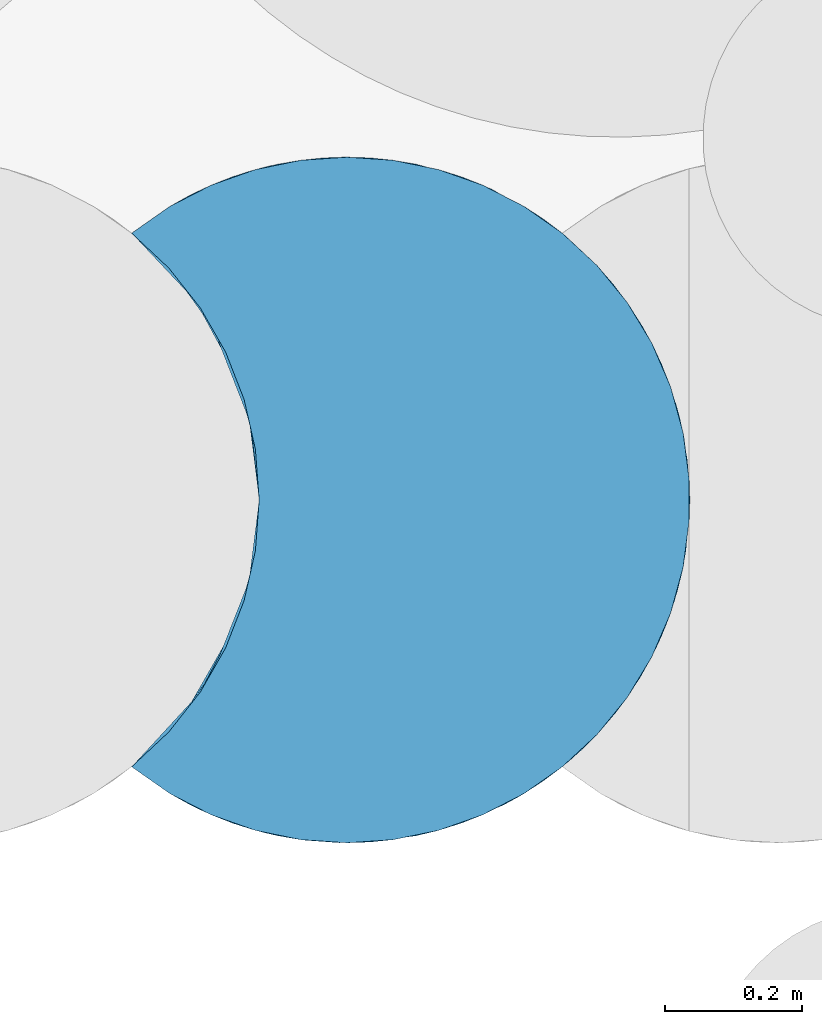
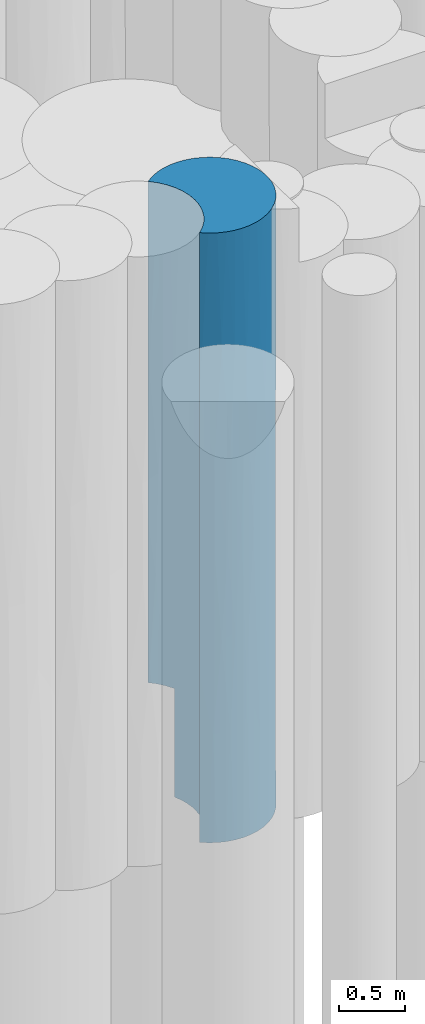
# One storey, part 22 of 104: 1 pile.
"""IFC2X3 building model written with IfcOpenShell, lengths in millimetres."""

import ifcopenshell
import ifcopenshell.guid

model = None  # the IFC model being written
_history = None  # IfcOwnerHistory: only IFC2X3 demands one
_inside = {}  # id of a spatial element -> (the spatial element, [elements in it])
_under = {}  # id of a project, library or spatial element -> (it, [spatial elements below it])
_declared = {}  # id of a project -> (the project, [libraries it declares])
_typed = {}  # id of a type object -> (the type object, [elements of that type])
_made_of = {}  # id of a material, layer set ... -> (it, [elements and type objects made of it])


def new_model(schema):
    """Start an empty IFC model of exactly this schema.

    Asked for "IFC4X3", IfcOpenShell would pick the latest addendum, in which some entities
    have other attributes; the version numbers below select the first issue.
    IFC2X3 requires an IfcOwnerHistory on every rooted entity: one is made here for all.
    """
    global model, _history
    if schema == "IFC4X3":
        model = ifcopenshell.file(schema_version=(4, 3, 0, 0))
    else:
        model = ifcopenshell.file(schema=schema)
    _inside.clear()
    _under.clear()
    _declared.clear()
    _typed.clear()
    _made_of.clear()
    _history = None
    if model.schema == "IFC2X3":
        org = make("IfcOrganization", Name="unknown")
        user = make(
            "IfcPersonAndOrganization",
            ThePerson=make("IfcPerson", FamilyName="unknown"),
            TheOrganization=org,
        )
        app = make(
            "IfcApplication",
            ApplicationDeveloper=org,
            Version="unknown",
            ApplicationFullName="unknown",
            ApplicationIdentifier="unknown",
        )
        _history = make(
            "IfcOwnerHistory",
            OwningUser=user,
            OwningApplication=app,
            ChangeAction="ADDED",
            CreationDate=0,
        )
    return model


def make(cls, **values):
    """One entity of the class cls with the attributes given. An attribute that is None is left unset."""
    return model.create_entity(
        cls, **{name: value for name, value in values.items() if value is not None}
    )


def entity(cls, *values):
    """Any entity or typed value of the class cls, its attributes in the order of the schema. None: left unset."""
    e = model.create_entity(cls)
    for i, value in enumerate(values):
        if value is not None:
            e[i] = value
    return e


def rooted(cls, **values):
    """An entity with a GlobalId (a new one), such as an element, a storey or a relation."""
    return make(cls, GlobalId=ifcopenshell.guid.new(), OwnerHistory=_history, **values)


def si_unit(unit_type, name, prefix=None):
    """IfcSIUnit, for example si_unit("LENGTHUNIT", "METRE", prefix="MILLI")."""
    return make("IfcSIUnit", UnitType=unit_type, Prefix=prefix, Name=name)


def converted_unit(unit_type, name, factor, base, dimensions=None, offset=None):
    """IfcConversionBasedUnit, such as the inch: factor (a typed value) times the base unit."""
    return make(
        "IfcConversionBasedUnit"
        if offset is None
        else "IfcConversionBasedUnitWithOffset",
        ConversionOffset=offset,
        Dimensions=None
        if dimensions is None
        else entity("IfcDimensionalExponents", *dimensions),
        UnitType=unit_type,
        Name=name,
        ConversionFactor=make(
            "IfcMeasureWithUnit", ValueComponent=factor, UnitComponent=base
        ),
    )


def derived_unit(unit_type, elements):
    """IfcDerivedUnit: a product of units, each with its exponent."""
    return make(
        "IfcDerivedUnit",
        Elements=[
            make("IfcDerivedUnitElement", Unit=unit, Exponent=power)
            for unit, power in elements
        ],
        UnitType=unit_type,
    )


def assignment(units):
    """IfcUnitAssignment: the units of a project."""
    return None if units is None else make("IfcUnitAssignment", Units=units)


def point(xyz):
    """IfcCartesianPoint."""
    return None if xyz is None else make("IfcCartesianPoint", Coordinates=xyz)


def direction(xyz):
    """IfcDirection."""
    return None if xyz is None else make("IfcDirection", DirectionRatios=xyz)


def frame(location, z_axis=None, x_axis=None):
    """IfcAxis2Placement3D, a coordinate frame: its origin and axes. An axis left out is left unset."""
    return make(
        "IfcAxis2Placement3D",
        Location=point(location),
        Axis=direction(z_axis),
        RefDirection=direction(x_axis),
    )


def origin():
    """The frame at (0, 0, 0) with its axes left unset."""
    return frame((0.0, 0.0, 0.0))


def place(relative_to, where):
    """IfcLocalPlacement: puts the frame where relative to a parent placement (None: the world)."""
    return make(
        "IfcLocalPlacement", PlacementRelTo=relative_to, RelativePlacement=where
    )


def context(
    kind, dimensions, precision=None, world=None, true_north=None, identifier=None
):
    """IfcGeometricRepresentationContext, for example the 3D "Model" context."""
    return make(
        "IfcGeometricRepresentationContext",
        ContextIdentifier=identifier,
        ContextType=kind,
        CoordinateSpaceDimension=dimensions,
        Precision=precision,
        WorldCoordinateSystem=world,
        TrueNorth=true_north,
    )


def subcontext(parent, identifier, kind, view, scale=None):
    """IfcGeometricRepresentationSubContext, for example "Body" below "Model"."""
    return make(
        "IfcGeometricRepresentationSubContext",
        ContextIdentifier=identifier,
        ContextType=kind,
        ParentContext=parent,
        TargetScale=scale,
        TargetView=view,
    )


def project(units=None, contexts=None):
    """IfcProject with its units and contexts."""
    return rooted(
        "IfcProject",
        Name="project",
        RepresentationContexts=contexts,
        UnitsInContext=assignment(units),
    )


def spatial(cls, under=None, at=None, **own):
    """A site, building, storey or space (cls), placed at a placement, below another one or the project."""
    s = rooted(cls, ObjectPlacement=at, **own)
    if under is not None:
        _under.setdefault(under.id(), (under, []))[1].append(s)
    return s


def faces_of(points, faces, orient=None, outer=None):
    """IfcFace entities. A face is a list of loops; a loop is a list of indices into points, from 0.

    orient and outer hold one flag for each loop. By default every Orientation is true, the
    first loop of a face is its IfcFaceOuterBound and the others are IfcFaceBound.
    """
    made = []
    for i, loops in enumerate(faces):
        bounds = []
        for j, loop in enumerate(loops):
            is_outer = j == 0 if outer is None else outer[i][j]
            bounds.append(
                make(
                    "IfcFaceOuterBound" if is_outer else "IfcFaceBound",
                    Bound=make("IfcPolyLoop", Polygon=[points[k] for k in loop]),
                    Orientation=True if orient is None else orient[i][j],
                )
            )
        made.append(make("IfcFace", Bounds=bounds))
    return made


def faceted_brep(points, faces, orient=None, outer=None, voids=None):
    """IfcFacetedBrep: a solid bounded by flat faces; with voids (closed shells), ...WithVoids."""
    shared = [point(p) for p in points]
    hull = make("IfcClosedShell", CfsFaces=faces_of(shared, faces, orient, outer))
    if voids is None:
        return make("IfcFacetedBrep", Outer=hull)
    return make(
        "IfcFacetedBrepWithVoids",
        Outer=hull,
        Voids=[
            make(cls, CfsFaces=faces_of(shared, fs, o, b)) for cls, fs, o, b in voids
        ],
    )


def shape(context_of_items, identifier, shape_type, items):
    """IfcShapeRepresentation: the items that make up one representation, for example the "Body"."""
    return make(
        "IfcShapeRepresentation",
        ContextOfItems=context_of_items,
        RepresentationIdentifier=identifier,
        RepresentationType=shape_type,
        Items=items,
    )


def source(mapping_origin, context_of_items, identifier, shape_type, items):
    """IfcRepresentationMap: a shape defined once, which mapped items show again and again."""
    return make(
        "IfcRepresentationMap",
        MappingOrigin=mapping_origin,
        MappedRepresentation=shape(context_of_items, identifier, shape_type, items),
    )


def transform(
    local_origin,
    x_axis=None,
    y_axis=None,
    z_axis=None,
    scale=None,
    scale2=None,
    scale3=None,
    uniform=True,
):
    """IfcCartesianTransformationOperator3D, or its non-uniform kind. x_axis, y_axis, z_axis: its Axis1, 2, 3."""
    if uniform:
        return make(
            "IfcCartesianTransformationOperator3D",
            Axis1=direction(x_axis),
            Axis2=direction(y_axis),
            LocalOrigin=point(local_origin),
            Scale=scale,
            Axis3=direction(z_axis),
        )
    return make(
        "IfcCartesianTransformationOperator3DnonUniform",
        Axis1=direction(x_axis),
        Axis2=direction(y_axis),
        LocalOrigin=point(local_origin),
        Scale=scale,
        Axis3=direction(z_axis),
        Scale2=scale2,
        Scale3=scale3,
    )


def mapped(mapping_source, mapping_target):
    """IfcMappedItem: shows the shape of a source again, moved by a transform."""
    return make(
        "IfcMappedItem", MappingSource=mapping_source, MappingTarget=mapping_target
    )


def material(Name=None, Category=None):
    """IfcMaterial."""
    return make("IfcMaterial", Name=Name, Category=Category)


def made_of(thing, what):
    """Note that an element or type object is made of a material, layer set ...; save() writes the relation."""
    if what is not None:
        _made_of.setdefault(what.id(), (what, []))[1].append(thing)
    return thing


def element(
    cls,
    number,
    at=None,
    inside=None,
    cuts=None,
    type_object=None,
    material=None,
    context=None,
    identifier="Body",
    shape_type=None,
    held_by="IfcProductDefinitionShape",
    body=None,
    shapes=None,
    **own,
):
    """One element of the class cls, such as IfcWall. Its Tag is "e" and its number.

    at: its placement. inside: the storey or other place that contains it. cuts: it is an
    opening in that element (IfcRelVoidsElement). A single representation is given by context,
    identifier, shape_type and body (its items); several are given by shapes. held_by: the class
    of the entity that holds the representations. save() writes the other relations.
    """
    e = rooted(cls, Tag="e%d" % number, ObjectPlacement=at, **own)
    if body is not None:
        shapes = [shape(context, identifier, shape_type, body)]
    if shapes is not None:
        e.Representation = make(held_by, Representations=shapes)
    if inside is not None:
        _inside.setdefault(inside.id(), (inside, []))[1].append(e)
    if cuts is not None:
        rooted(
            "IfcRelVoidsElement", RelatingBuildingElement=cuts, RelatedOpeningElement=e
        )
    if type_object is not None:
        _typed.setdefault(type_object.id(), (type_object, []))[1].append(e)
    return made_of(e, material)


def aggregate(whole, parts):
    """IfcRelAggregates: a whole, such as a stair, and the parts it consists of."""
    return rooted("IfcRelAggregates", RelatingObject=whole, RelatedObjects=parts)


def save(model, path):
    """Write the relations noted so far, then the file.

    IfcRelAggregates (storeys below a building ...), IfcRelContainedInSpatialStructure (elements
    in a storey), IfcRelDefinesByType, IfcRelAssociatesMaterial and IfcRelDeclares: one each for
    every whole, place, type object, material and project.
    """
    for whole, parts in _under.values():
        aggregate(whole, parts)
    for where, things in _inside.values():
        rooted(
            "IfcRelContainedInSpatialStructure",
            RelatedElements=things,
            RelatingStructure=where,
        )
    for kind, things in _typed.values():
        rooted("IfcRelDefinesByType", RelatedObjects=things, RelatingType=kind)
    for what, things in _made_of.values():
        rooted("IfcRelAssociatesMaterial", RelatedObjects=things, RelatingMaterial=what)
    for by, libraries in _declared.values():
        rooted("IfcRelDeclares", RelatingContext=by, RelatedDefinitions=libraries)
    model.write(path)


model = new_model("IFC2X3")

# Units and contexts
model_context = context("Model", 3, precision=0.01, world=origin(), true_north=direction((6.12303176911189e-17, 1.0)))
body_context = subcontext(model_context, "Body", "Model", "MODEL_VIEW")
ifc_project = project(units=[si_unit("LENGTHUNIT", "METRE", prefix="MILLI"), si_unit("AREAUNIT", "SQUARE_METRE", prefix="MILLI"), si_unit("VOLUMEUNIT", "CUBIC_METRE"), converted_unit("PLANEANGLEUNIT", "DEGREE", entity("IfcRatioMeasure", 0.0174532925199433), si_unit("PLANEANGLEUNIT", "RADIAN"), dimensions=[0, 0, 0, 0, 0, 0, 0]), si_unit("MASSUNIT", "GRAM", prefix="KILO"), derived_unit("MASSDENSITYUNIT", [(si_unit("MASSUNIT", "GRAM", prefix="KILO"), 1), (si_unit("LENGTHUNIT", "METRE"), -3)]), derived_unit("MOMENTOFINERTIAUNIT", [(si_unit("LENGTHUNIT", "METRE"), 4)]), si_unit("TIMEUNIT", "SECOND"), si_unit("FREQUENCYUNIT", "HERTZ"), si_unit("THERMODYNAMICTEMPERATUREUNIT", "DEGREE_CELSIUS"), derived_unit("THERMALTRANSMITTANCEUNIT", [(si_unit("MASSUNIT", "GRAM", prefix="KILO"), 1), (si_unit("THERMODYNAMICTEMPERATUREUNIT", "KELVIN"), -1), (si_unit("TIMEUNIT", "SECOND"), -3)]), derived_unit("VOLUMETRICFLOWRATEUNIT", [(si_unit("LENGTHUNIT", "METRE"), 3), (si_unit("TIMEUNIT", "SECOND"), -1)]), si_unit("ELECTRICCURRENTUNIT", "AMPERE"), si_unit("ELECTRICVOLTAGEUNIT", "VOLT"), si_unit("POWERUNIT", "WATT"), si_unit("FORCEUNIT", "NEWTON", prefix="KILO"), si_unit("ILLUMINANCEUNIT", "LUX"), si_unit("LUMINOUSFLUXUNIT", "LUMEN"), si_unit("LUMINOUSINTENSITYUNIT", "CANDELA"), derived_unit("USERDEFINED", [(si_unit("MASSUNIT", "GRAM", prefix="KILO"), -1), (si_unit("LENGTHUNIT", "METRE"), -2), (si_unit("TIMEUNIT", "SECOND"), 3), (si_unit("LUMINOUSFLUXUNIT", "LUMEN"), 1)]), derived_unit("LINEARVELOCITYUNIT", [(si_unit("LENGTHUNIT", "METRE"), 1), (si_unit("TIMEUNIT", "SECOND"), -1)]), si_unit("PRESSUREUNIT", "PASCAL"), derived_unit("USERDEFINED", [(si_unit("LENGTHUNIT", "METRE"), -2), (si_unit("MASSUNIT", "GRAM", prefix="KILO"), 1), (si_unit("TIMEUNIT", "SECOND"), -2)]), derived_unit("LINEARFORCEUNIT", [(si_unit("MASSUNIT", "GRAM", prefix="KILO"), 1), (si_unit("LENGTHUNIT", "METRE"), 1), (si_unit("TIMEUNIT", "SECOND"), -2), (si_unit("LENGTHUNIT", "METRE"), -1)]), derived_unit("PLANARFORCEUNIT", [(si_unit("MASSUNIT", "GRAM", prefix="KILO"), 1), (si_unit("LENGTHUNIT", "METRE"), 1), (si_unit("TIMEUNIT", "SECOND"), -2), (si_unit("LENGTHUNIT", "METRE"), -2)])], contexts=[model_context])

# Site, building, storey
site_placement = place(None, origin())
site = spatial("IfcSite", under=ifc_project, at=site_placement, Name="Theater aan de Parade", CompositionType="ELEMENT")
building_placement = place(site_placement, origin())
building = spatial("IfcBuilding", under=site, at=building_placement, Name="Theater aan de Parade", CompositionType="ELEMENT")
storey_placement = place(building_placement, frame((0.0, 0.0, -5520.0)))
storey = spatial("IfcBuildingStorey", under=building, at=storey_placement, Name="-2 kelder", CompositionType="ELEMENT", Elevation=-5520.0)

# Pile
ifc_material = material(Name="00_PBT_MAT_grout")
shared_shape = source(origin(), body_context, "Body", "Brep", [
    faceted_brep([(786.691195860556, 669.132225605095, 0.0), (802.676759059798, 614.518366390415, 0.0), (812.351470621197, 558.457204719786, 0.0), (815.595272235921, 501.595272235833, 0.0), (810.081014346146, 427.542244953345, 0.0), (793.660970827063, 355.126204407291, 0.0), (766.697585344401, 285.941143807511, 0.0), (729.786240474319, 221.513423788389, 0.0), (683.741416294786, 163.263457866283, 0.0), (629.573708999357, 112.471523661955, 0.0), (574.005639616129, 73.5484499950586, 0.0), (513.679312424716, 42.5062688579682, 0.0), (449.710167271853, 19.9177920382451, 0.0), (383.274865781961, 6.19697528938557, 0.0), (315.594989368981, 1.5952722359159, 0.0), (247.914799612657, 6.1970953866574, 0.0), (181.478594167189, 19.9182884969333, 0.0), (117.508224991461, 42.5075663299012, 0.0), (57.1823898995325, 73.5499682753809, 0.0), (1.59527223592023, 112.48860305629, 0.0), (55.7556313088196, 163.278926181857, 0.0), (101.797316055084, 221.529803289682, 0.0), (138.705014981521, 285.956685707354, 0.0), (165.664839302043, 355.138831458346, 0.0), (182.082270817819, 427.550635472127, 0.0), (187.595272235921, 501.595272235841, 0.0), (184.351856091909, 558.453837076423, 0.0), (174.676819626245, 614.518105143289, 0.0), (158.690674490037, 669.133691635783, 0.0), (136.594158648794, 721.595272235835, 0.0), (764.594158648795, 721.595272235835, 0.0), (764.594158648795, 721.595272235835, 1000.0), (800.113417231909, 625.054444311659, 943.336597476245), (214.486372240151, 991.265559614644, 3728.11332559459), (311.544723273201, 1001.57886501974, 3351.86429077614), (281.67804971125, 1000.44356782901, 2417.5000684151), (482.088212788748, 973.061178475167, 2218.16851955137), (574.016438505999, 929.635575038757, 1000.0), (513.689946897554, 960.679686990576, 1000.0), (634.059324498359, 887.05687527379, 3310.7182037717), (602.496198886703, 911.092351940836, 4138.24338629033), (703.291489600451, 817.335106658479, 4488.02681666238), (795.773565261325, 640.982527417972, 1879.71199225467), (747.426539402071, 753.630501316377, 2241.73915732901), (799.313256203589, 628.153211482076, 3059.23110525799), (526.829104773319, 954.78427032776, 3196.15039447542), (416.73334211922, 991.259535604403, 3309.97732057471), (807.730702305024, 589.928269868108, 4221.76802862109), (814.737142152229, 530.876558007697, 5120.0), (815.380693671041, 516.242200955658, 5120.0), (680.627764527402, 843.284135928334, 2047.31089967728), (629.595272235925, 890.70194141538, 1000.0), (602.467115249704, 911.112726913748, 2483.33687575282), (727.977154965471, 784.333990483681, 1000.0), (682.65649192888, 841.1038302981, 1000.0), (760.209017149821, 730.327906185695, 5620.0), (775.008411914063, 698.926382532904, 4135.24555150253), (95.4488252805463, 950.522373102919, 3554.08984330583), (86.8102220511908, 946.182047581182, 2019.15431558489), (1.59527223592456, 890.701941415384, 2561.5317559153), (703.291489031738, 817.335107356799, 3311.9583557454), (815.595272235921, 501.595272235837, 5120.0), (815.595272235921, 501.595272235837, 3558.46227306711), (379.571848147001, 997.485378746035, 1994.9164188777), (814.737142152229, 530.876558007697, 5620.0), (805.887625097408, 599.643264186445, 5620.0), (1.59527223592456, 890.70194141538, 4123.06351183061), (149.123765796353, 973.068747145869, 4596.89882955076), (761.375580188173, 728.045966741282, 3192.61192923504), (815.595272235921, 501.595272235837, 1561.53772693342), (815.595272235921, 501.595272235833, 780.768852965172), (787.593294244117, 666.573656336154, 5620.0), (724.263867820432, 789.675085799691, 5620.0), (349.552471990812, 1000.44084812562, 4401.90008145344), (680.450545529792, 843.473363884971, 5620.0), (629.621660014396, 890.680645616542, 5620.0), (449.719299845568, 983.270209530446, 1000.0), (315.598129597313, 1001.59527222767, 1000.0), (449.756860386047, 983.25974909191, 5620.0), (513.726089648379, 960.664089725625, 5620.0), (483.31342762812, 972.626715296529, 4397.01820791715), (383.281381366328, 996.992679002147, 1000.0), (181.47450425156, 983.27111717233, 1000.0), (203.776046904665, 988.931358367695, 1878.04831429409), (247.91424749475, 996.993373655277, 1000.0), (1.59527223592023, 890.70194141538, 5620.0), (57.1848648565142, 929.642070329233, 5620.0), (117.501033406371, 960.679875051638, 1000.0), (249.289228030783, 997.179279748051, 4619.5334849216), (168.071222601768, 979.33647286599, 2714.83556036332), (1.59527223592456, 890.701941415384, 1000.0), (815.595272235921, 501.595272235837, 2560.0), (181.496708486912, 983.277299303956, 5620.0), (117.518071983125, 960.687226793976, 5620.0), (574.04820837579, 929.61639297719, 5620.0), (815.595272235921, 501.595272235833, 1996.92458813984), (383.317621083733, 996.987726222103, 5620.0), (315.630847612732, 1001.59527097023, 5620.0), (247.941999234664, 996.997164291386, 5620.0), (57.1737559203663, 929.635363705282, 1000.0), (214.463722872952, 11.9296621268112, 1001.65166527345), (149.109844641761, 30.1267129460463, 1845.10982100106), (1.5952722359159, 112.488603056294, 1561.52294586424), (86.818188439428, 57.0043974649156, 1001.65623575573), (774.096274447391, 302.153975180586, 850.974436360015), (803.21715130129, 391.028988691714, 952.504035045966), (781.465363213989, 320.032450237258, 1699.14832932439), (349.513058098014, 2.74701494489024, 1456.92068754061), (482.078283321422, 30.1258596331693, 920.01338972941), (602.455927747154, 92.0699808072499, 920.027764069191), (638.275104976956, 119.655845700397, 1901.94874573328), (544.369594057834, 57.0029762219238, 1664.67306861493), (98.4640717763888, 51.2020642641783, 3529.58130751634), (1.5952722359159, 112.488603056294, 4058.45131446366), (1.5952722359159, 112.488603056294, 3123.07163140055), (249.733652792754, 5.95200628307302, 4504.09563515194), (149.123766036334, 30.1217972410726, 4542.041347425), (214.486372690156, 11.9249847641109, 3609.27819266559), (57.1848648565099, 73.5484741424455, 5620.0), (117.518071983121, 42.5033176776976, 5620.0), (254.093078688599, 5.39220877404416, 1927.12007066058), (815.380693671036, 486.948343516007, 5120.0), (247.941999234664, 6.19338018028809, 5620.0), (315.630847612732, 1.59527350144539, 5620.0), (667.294821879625, 146.197710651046, 3524.13404968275), (571.532279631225, 72.0650075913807, 2809.8304288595), (645.132794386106, 125.556681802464, 2738.08859917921), (181.496708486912, 19.9132451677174, 5620.0), (101.128732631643, 49.9271381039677, 2619.9812292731), (797.902861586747, 369.764360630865, 4702.89802013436), (743.267120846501, 242.564791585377, 4702.89942267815), (775.008413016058, 304.264164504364, 3970.97099518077), (1.5952722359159, 112.488603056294, 5620.0), (383.317621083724, 6.20281824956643, 5620.0), (349.552472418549, 2.7496963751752, 4251.67976310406), (193.953035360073, 16.6177818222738, 2685.28618484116), (565.661000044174, 68.6205249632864, 4775.09948150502), (482.125154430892, 30.1424131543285, 4699.88639671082), (544.414351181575, 57.0260097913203, 3955.1029769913), (707.84659980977, 191.532543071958, 1364.20167579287), (446.449116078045, 19.0216803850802, 1841.02461390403), (723.377934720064, 212.262764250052, 3768.40179605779), (814.737142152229, 472.313986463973, 5120.0), (445.25806740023, 18.7002944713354, 3769.01918074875), (805.887625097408, 403.54728028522, 5620.0), (787.593294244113, 336.616888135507, 5620.0), (724.263867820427, 213.515458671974, 5620.0), (760.209017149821, 272.862638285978, 5620.0), (304.346168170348, 1.72183059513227, 2858.51750126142), (574.048208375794, 73.5741514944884, 5620.0), (513.726089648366, 42.5264547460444, 5620.0), (629.621660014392, 112.509898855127, 5620.0), (655.855774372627, 135.230985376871, 4345.18702231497), (680.450545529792, 159.717180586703, 5620.0), (416.725481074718, 11.9293852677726, 2809.97800762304), (807.150399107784, 410.088129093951, 1801.71311238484), (814.737142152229, 472.313986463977, 5620.0), (805.49699070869, 401.613742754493, 3796.47612151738), (786.069980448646, 332.321680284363, 2848.76635450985), (707.846599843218, 191.532543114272, 2805.28361866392), (449.756860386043, 19.9307953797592, 5620.0), (1.59527223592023, 112.48860305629, 2496.92458727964), (165.664839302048, 648.051713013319, 5620.0), (182.082270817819, 575.639908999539, 5620.0), (187.595272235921, 501.595272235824, 5620.0), (182.082270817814, 427.550635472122, 5620.0), (165.664839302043, 355.138831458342, 5620.0), (138.705014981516, 285.95668570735, 5620.0), (101.797316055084, 221.529803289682, 5620.0), (55.7556313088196, 163.278926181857, 5620.0), (55.7556313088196, 839.911618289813, 5620.0), (101.797316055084, 781.660741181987, 5620.0), (138.705014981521, 717.233858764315, 5620.0), (136.594158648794, 721.595272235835, 1000.0), (172.122008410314, 625.020723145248, 2185.76883889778), (119.427502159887, 753.628851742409, 2433.42986645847), (175.21954898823, 612.150980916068, 4576.67015981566), (187.595272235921, 501.595272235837, 4058.46227468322), (187.595272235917, 501.595272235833, 4839.23114702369), (175.896633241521, 609.120993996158, 1097.45129906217), (94.629182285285, 791.980182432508, 3512.63833996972), (153.47088726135, 683.143919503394, 3717.14064093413), (121.448734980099, 750.133343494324, 4576.67015594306), (187.595272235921, 501.595272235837, 2810.0), (187.595272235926, 501.595272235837, 1561.53772531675), (63.9162977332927, 830.81022597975, 1978.06996583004), (179.682000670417, 590.199175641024, 3712.09113047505), (61.8533584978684, 833.153539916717, 4677.61981977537), (99.9793152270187, 784.330839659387, 1000.0), (54.6608621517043, 841.09910535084, 1000.0), (187.595272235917, 501.595272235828, 780.768852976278), (187.595272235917, 501.595272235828, 3123.07541190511), (174.669644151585, 388.641493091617, 3590.76885291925), (179.684618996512, 413.005911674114, 1171.15327929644), (153.470888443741, 320.046628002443, 4528.23196711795), (178.678003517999, 407.585958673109, 4768.20537871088), (79.859244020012, 191.548539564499, 992.298435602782), (153.470888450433, 320.046628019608, 992.298435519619), (172.048086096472, 377.879989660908, 2161.96816482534), (101.213610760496, 220.668466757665, 4584.62325484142), (121.448735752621, 253.057202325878, 3610.51128799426), (121.448735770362, 253.057202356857, 1789.11083026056), (68.3744799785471, 177.547135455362, 3047.10534667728), (64.7189653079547, 173.300099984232, 2029.23114692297), (121.049079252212, 252.360850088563, 2699.81105912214)], [[[0, 1, 2, 3, 4, 5, 6, 7, 8, 9, 10, 11, 12, 13, 14, 15, 16, 17, 18, 19, 20, 21, 22, 23, 24, 25, 26, 27, 28, 29, 30]], [[0, 31, 32]], [[33, 34, 35]], [[36, 37, 38]], [[39, 40, 41]], [[42, 43, 44]], [[45, 36, 46]], [[47, 48, 49]], [[50, 51, 52]], [[43, 53, 50]], [[54, 50, 53]], [[43, 42, 31]], [[55, 56, 41]], [[51, 37, 52]], [[30, 31, 0]], [[57, 58, 59]], [[60, 41, 56]], [[45, 52, 36]], [[61, 62, 47]], [[46, 36, 63]], [[64, 48, 65]], [[57, 66, 67]], [[60, 68, 43]], [[65, 48, 47]], [[2, 1, 32]], [[2, 69, 70, 3]], [[53, 43, 31]], [[49, 61, 47]], [[71, 56, 55]], [[41, 72, 55]], [[34, 73, 46]], [[72, 41, 74]], [[71, 65, 47]], [[40, 75, 41]], [[56, 47, 44]], [[41, 75, 74]], [[37, 36, 52]], [[63, 36, 76]], [[42, 32, 31]], [[60, 43, 50]], [[77, 35, 63]], [[78, 79, 80]], [[81, 63, 76]], [[82, 83, 84]], [[66, 85, 86]], [[87, 58, 83]], [[33, 67, 88]], [[89, 58, 57]], [[89, 57, 33]], [[73, 80, 46]], [[90, 59, 58]], [[77, 84, 35]], [[44, 62, 91]], [[92, 67, 93]], [[86, 93, 67]], [[57, 67, 33]], [[75, 40, 94]], [[94, 40, 80]], [[78, 80, 73]], [[68, 44, 43]], [[42, 91, 95, 69]], [[73, 96, 78]], [[86, 67, 66]], [[59, 66, 57]], [[96, 73, 97]], [[89, 83, 58]], [[88, 97, 73]], [[83, 89, 35]], [[45, 80, 40]], [[34, 88, 73]], [[94, 80, 79]], [[98, 88, 92]], [[89, 33, 35]], [[87, 99, 58]], [[36, 38, 76]], [[90, 58, 99]], [[41, 60, 39]], [[91, 42, 44]], [[32, 1, 0]], [[92, 88, 67]], [[97, 88, 98]], [[80, 45, 46]], [[39, 45, 40]], [[84, 83, 35]], [[83, 82, 87]], [[42, 69, 32]], [[2, 32, 69]], [[50, 39, 60]], [[45, 39, 52]], [[44, 47, 62]], [[47, 56, 71]], [[34, 33, 88]], [[63, 34, 46]], [[77, 63, 81]], [[63, 35, 34]], [[51, 50, 54]], [[50, 52, 39]], [[60, 56, 68]], [[44, 68, 56]], [[100, 16, 15]], [[101, 102, 103]], [[100, 103, 17]], [[104, 105, 106]], [[14, 13, 107]], [[19, 103, 102]], [[108, 12, 11]], [[109, 110, 111]], [[13, 12, 108]], [[14, 100, 15]], [[112, 113, 114]], [[115, 116, 117]], [[14, 107, 100]], [[118, 116, 119]], [[120, 100, 107]], [[10, 109, 108]], [[62, 61, 121]], [[10, 108, 11]], [[122, 115, 123]], [[124, 125, 126]], [[116, 127, 119]], [[128, 102, 101]], [[129, 130, 131]], [[118, 132, 113]], [[133, 123, 134]], [[116, 115, 127]], [[135, 112, 128]], [[17, 16, 100]], [[136, 137, 138]], [[113, 116, 118]], [[137, 133, 134]], [[6, 5, 104]], [[109, 8, 139]], [[4, 3, 70]], [[107, 108, 140]], [[115, 117, 134]], [[108, 109, 111]], [[141, 131, 130]], [[104, 7, 6]], [[18, 103, 19]], [[142, 62, 121]], [[103, 100, 101]], [[140, 108, 111]], [[143, 138, 137]], [[129, 144, 145]], [[4, 105, 5]], [[146, 130, 147]], [[148, 134, 117]], [[116, 112, 117]], [[101, 100, 120]], [[109, 10, 9]], [[149, 150, 136]], [[149, 136, 151]], [[104, 5, 105]], [[152, 153, 151]], [[154, 140, 125]], [[136, 150, 137]], [[111, 110, 125]], [[105, 155, 106]], [[152, 130, 153]], [[129, 145, 130]], [[142, 156, 144]], [[62, 157, 158]], [[157, 142, 129]], [[139, 8, 7]], [[158, 95, 91, 62]], [[147, 130, 145]], [[159, 106, 158]], [[148, 135, 120]], [[137, 150, 160]], [[106, 159, 139]], [[17, 103, 18]], [[13, 108, 107]], [[8, 109, 9]], [[110, 109, 139]], [[133, 137, 160]], [[143, 154, 125]], [[153, 130, 146]], [[141, 159, 158]], [[157, 129, 131]], [[142, 144, 129]], [[4, 70, 105]], [[155, 70, 69, 95]], [[139, 159, 110]], [[124, 138, 125]], [[126, 125, 110]], [[125, 138, 143]], [[137, 134, 143]], [[134, 154, 143]], [[130, 152, 141]], [[124, 141, 152]], [[113, 112, 116]], [[135, 128, 101]], [[125, 140, 111]], [[154, 107, 140]], [[158, 157, 131]], [[142, 157, 62]], [[158, 131, 141]], [[158, 106, 155]], [[148, 107, 154]], [[135, 101, 120]], [[120, 107, 148]], [[112, 135, 117]], [[134, 148, 154]], [[117, 135, 148]], [[112, 114, 128]], [[128, 114, 161, 102]], [[138, 152, 136]], [[151, 136, 152]], [[106, 139, 104]], [[7, 104, 139]], [[70, 155, 105]], [[158, 155, 95]], [[123, 115, 134]], [[127, 115, 122]], [[110, 159, 126]], [[159, 141, 124]], [[138, 124, 152]], [[159, 124, 126]], [[162, 163, 164, 165, 166, 167, 168, 169, 132, 118, 119, 127, 122, 123, 133, 160, 150, 149, 151, 153, 146, 147, 145, 144, 156, 64, 65, 71, 55, 72, 74, 75, 94, 79, 78, 96, 97, 98, 92, 93, 86, 85, 170, 171, 172]], [[173, 174, 175]], [[176, 177, 178, 164]], [[179, 27, 26]], [[180, 181, 182]], [[66, 59, 180]], [[25, 179, 26]], [[183, 174, 184]], [[176, 182, 181]], [[171, 182, 172]], [[185, 180, 59]], [[176, 181, 186]], [[186, 181, 174]], [[173, 28, 179]], [[175, 181, 180]], [[187, 170, 85]], [[179, 174, 173]], [[175, 188, 173]], [[189, 188, 185]], [[66, 180, 187]], [[187, 182, 171]], [[163, 162, 176]], [[185, 59, 90]], [[177, 176, 186]], [[176, 172, 182]], [[172, 176, 162]], [[163, 176, 164]], [[185, 175, 180]], [[28, 173, 29]], [[179, 184, 174]], [[170, 187, 171]], [[175, 174, 181]], [[179, 25, 190, 184]], [[28, 27, 179]], [[186, 183, 191, 177]], [[183, 186, 174]], [[175, 185, 188]], [[189, 185, 90]], [[182, 187, 180]], [[66, 187, 85]], [[191, 192, 177]], [[190, 24, 193]], [[194, 166, 195]], [[196, 20, 19]], [[22, 21, 196, 197]], [[21, 20, 196]], [[192, 191, 198]], [[169, 199, 113]], [[199, 194, 200]], [[195, 177, 192]], [[197, 201, 198]], [[197, 198, 193]], [[194, 199, 167]], [[165, 178, 195]], [[190, 25, 24]], [[164, 178, 165]], [[194, 167, 166]], [[169, 113, 132]], [[167, 199, 168]], [[161, 202, 203]], [[23, 193, 24]], [[23, 22, 197]], [[196, 201, 197]], [[202, 161, 114, 113]], [[203, 102, 161]], [[201, 196, 203]], [[102, 196, 19]], [[192, 200, 194]], [[192, 198, 204]], [[198, 191, 183, 184]], [[200, 192, 204]], [[102, 203, 196]], [[200, 204, 202]], [[201, 203, 204]], [[199, 200, 202]], [[168, 199, 169]], [[113, 199, 202]], [[202, 204, 203]], [[201, 204, 198]], [[178, 177, 195]], [[165, 195, 166]], [[194, 195, 192]], [[184, 190, 193]], [[184, 193, 198]], [[23, 197, 193]], [[99, 87, 82, 84, 77, 81, 76, 38, 37, 51, 54, 53, 31, 173, 188, 189, 90]], [[31, 30, 29, 173]], [[121, 61, 49, 48, 142]], [[142, 48, 64, 156]]]),
])
pile_placement = place(storey_placement, frame((37150.2628578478, 22160.7721311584, -3840.0)))
element("IfcPile", 1, at=pile_placement, inside=storey, material=ifc_material, Name="17_PBT_SFO_grondkering_rond:Ø1000 (grondkering)", ObjectType="17_PBT_SFO_grondkering_rond:Ø1000 (grondkering)", PredefinedType="NOTDEFINED", context=body_context, shape_type="MappedRepresentation", body=[
    mapped(shared_shape, transform((0.0, 0.0, 0.0), scale=1.0)),
])

save(model, "model.ifc")
